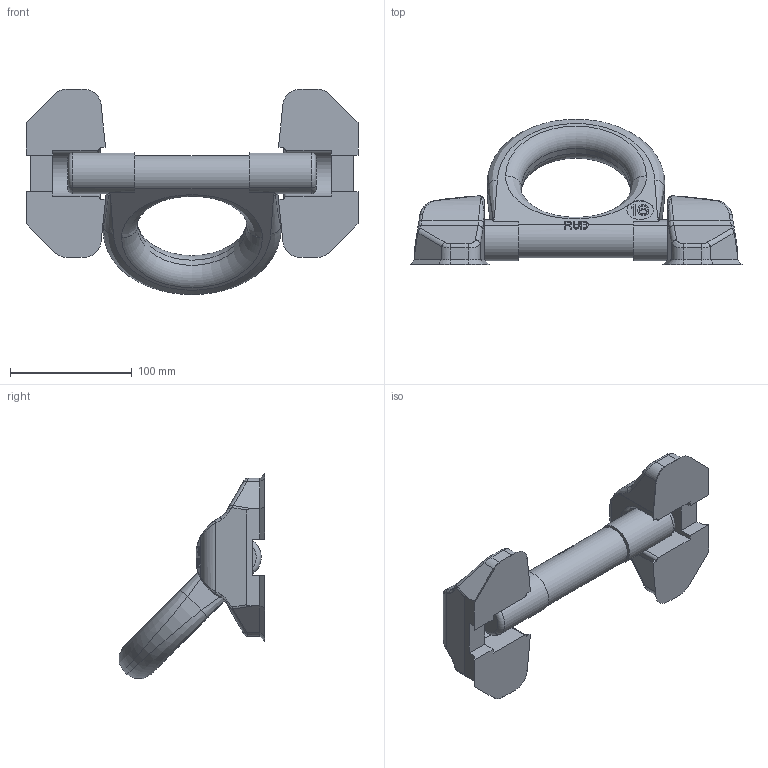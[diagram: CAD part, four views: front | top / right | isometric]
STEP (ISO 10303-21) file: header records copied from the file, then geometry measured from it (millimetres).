
FILE_DESCRIPTION((''),'2;1');
FILE_NAME('001-M31835-P-45_ASM','2008-10-28T',('Azubitbm'),('RAND'),'PRO/ENGINEER BY PARAMETRIC TECHNOLOGY CORPORATION, 2005030','PRO/ENGINEER BY PARAMETRIC TECHNOLOGY CORPORATION, 2005030','');
FILE_SCHEMA(('CONFIG_CONTROL_DESIGN'));
Length unit declared in the file: millimetre
Products named in the file (3): 001-M31835-P-1; 001-M31834-P-1; 001-M31835-P-45_ASM
Assembly tree (3 placements, depth 2):
  001-M31835-P-45_ASM
    001-M31835-P-1  x2
    001-M31834-P-1
Bounding box: 273 x 119.72 x 168.72 mm (x, y, z)
Volume: 818342.3 mm3; surface area: 107639.6 mm2
Topology: 3 solids, 3 shells, 816 faces, 2237 edges, 1446 vertices
Faces by surface type: plane 672, cylinder 62, bspline 62, cone 12, torus 8
Entity records: 19780 total; most frequent: CARTESIAN_POINT 7174, ORIENTED_EDGE 2770, DIRECTION 2315, EDGE_CURVE 1385, VECTOR 1173, LINE 1173, VERTEX_POINT 900, AXIS2_PLACEMENT_3D 571
